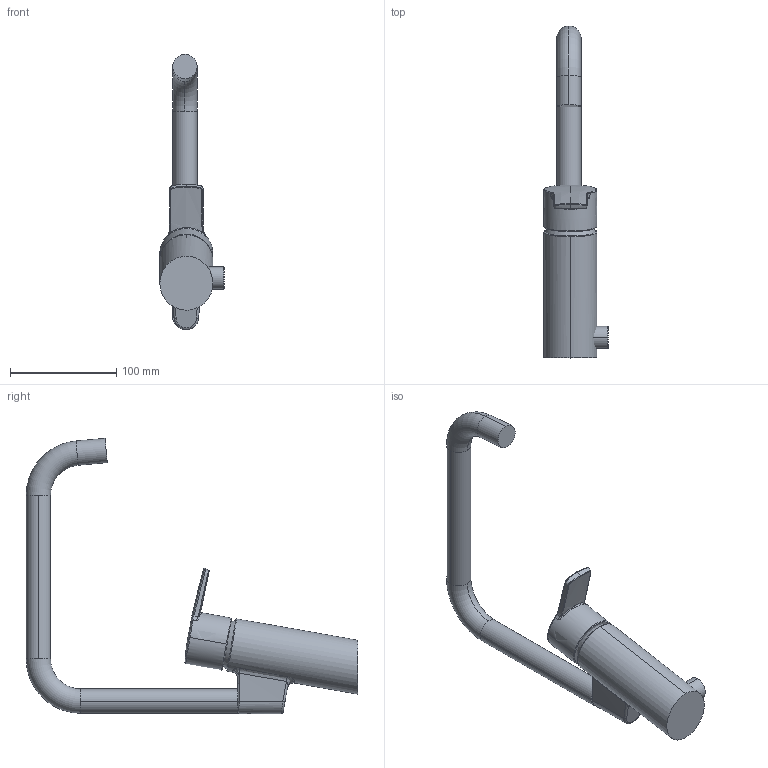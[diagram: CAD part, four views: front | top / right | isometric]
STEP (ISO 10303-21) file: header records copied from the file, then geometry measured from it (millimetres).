
FILE_DESCRIPTION (( 'STEP AP203' ), '1' );
FILE_NAME ('2839F-Y.STEP', '2017-09-21T10:31:04', ( '' ), ( '' ), 'SwSTEP 2.0', 'SolidWorks 2016', '' );
FILE_SCHEMA (( 'CONFIG_CONTROL_DESIGN' ));
Length unit declared in the file: millimetre
Products named in the file (1): 2839F-Y
Bounding box: 60.61 x 312.61 x 259.43 mm (x, y, z)
Surface area: 76847 mm2 (no closed solid volume)
Topology: 0 solids, 5 shells, 80 faces, 198 edges, 124 vertices
Faces by surface type: bspline 42, cylinder 14, torus 14, plane 7, cone 2, sphere 1
Entity records: 6430 total; most frequent: CARTESIAN_POINT 4835, ORIENTED_EDGE 384, DIRECTION 227, EDGE_CURVE 195, VERTEX_POINT 122, AXIS2_PLACEMENT_3D 105, B_SPLINE_CURVE_WITH_KNOTS 87, FACE_OUTER_BOUND 80
